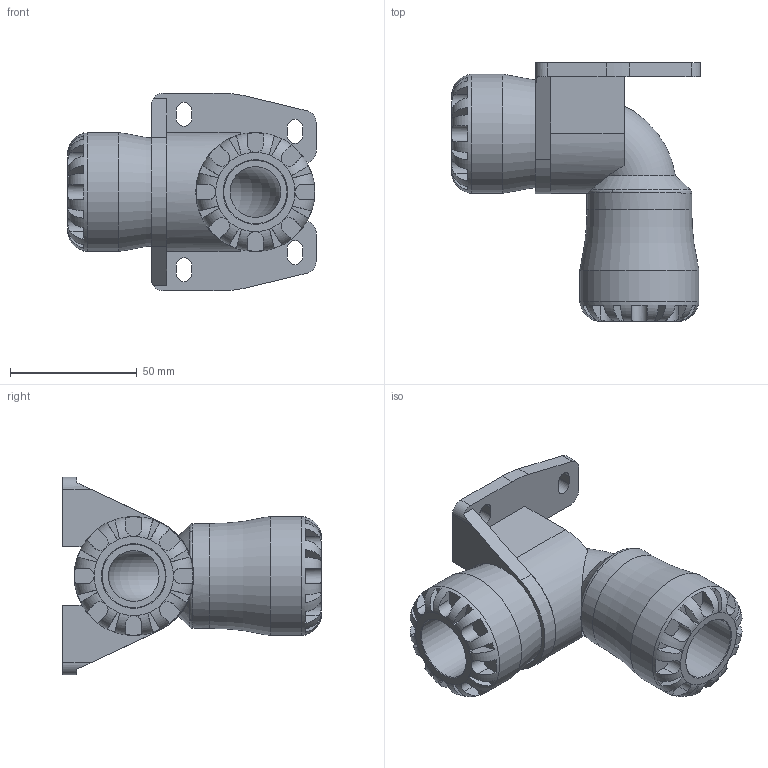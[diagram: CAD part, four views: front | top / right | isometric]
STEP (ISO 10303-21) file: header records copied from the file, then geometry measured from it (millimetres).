
FILE_DESCRIPTION(/* description */ ('PLASSON WALL PLATE ELBOW 25X1/2" SERIES 1'),/* implementation_level */ '2;1');
FILE_NAME(/* name */ 'C:\Dropbox\KIMPROJECTS-Inventor\99-16-3568-Processing\S1\1075_\1075_.ipt.stp',/* time_stamp */ '2018-07-12T11:21:42+03:00',/* author */ ('KIM'),/* organization */ (''),/* preprocessor_version */ 'ST-DEVELOPER v15.6',/* originating_system */ 'Autodesk Inventor 2015',/* authorisation */ '');
FILE_SCHEMA (('AUTOMOTIVE_DESIGN { 1 0 10303 214 3 1 1 }'));
Length unit declared in the file: millimetre
Products named in the file (1): 1075_
Bounding box: 98 x 102 x 78 mm (x, y, z)
Volume: 153445.1 mm3; surface area: 50929.3 mm2
Topology: 3 solids, 3 shells, 207 faces, 537 edges, 339 vertices
Faces by surface type: plane 134, cylinder 61, torus 6, bspline 4, cone 2
Full cylindrical faces by diameter (mm): 20 x2, 25 x2, 41.36 x2, 47 x2
Entity records: 7874 total; most frequent: CARTESIAN_POINT 2739, ORIENTED_EDGE 1034, DIRECTION 992, EDGE_CURVE 517, AXIS2_PLACEMENT_3D 379, VERTEX_POINT 335, EDGE_LOOP 236, LINE 234
